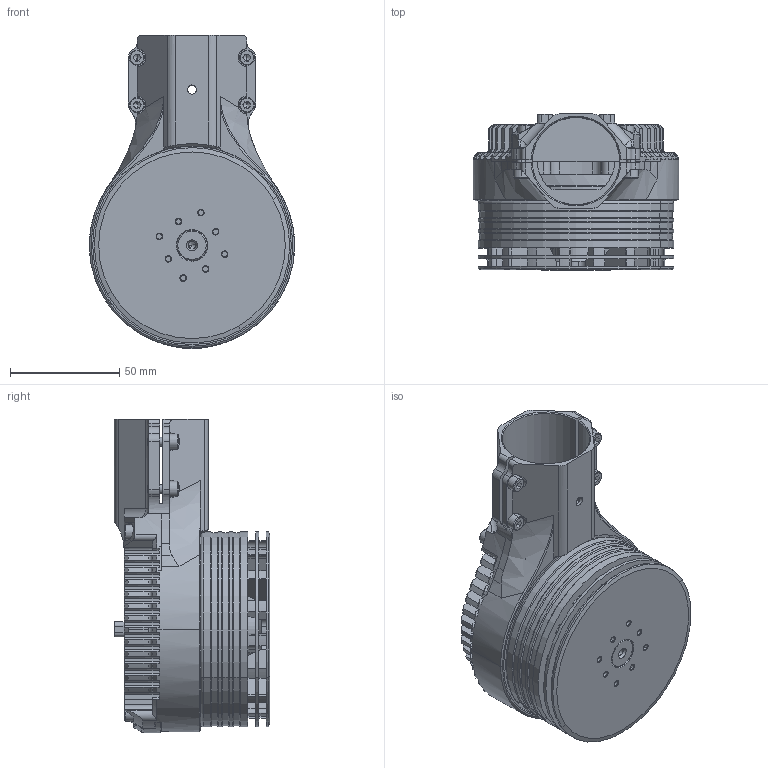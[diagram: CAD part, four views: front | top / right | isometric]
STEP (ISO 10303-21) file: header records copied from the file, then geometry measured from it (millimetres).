
FILE_DESCRIPTION (( 'STEP AP203' ), '1' );
FILE_NAME ('RD R8 IPU.STEP', '2026-04-29T11:05:45', ( '' ), ( '' ), 'RDSTEP 2.0', 'Reflex drive Product 2026', '' );
FILE_SCHEMA (( 'CONFIG_CONTROL_DESIGN' ));
Products named in the file (1): RD R8 IPU
Bounding box: 94 x 71.23 x 143.44 mm (x, y, z)
Volume: 309322.9 mm3; surface area: 130256.4 mm2
Topology: 1 solids, 16 shells, 2605 faces, 7040 edges, 4283 vertices
Faces by surface type: cylinder 1036, plane 990, cone 285, sphere 178, torus 64, bspline 52
Entity records: 87562 total; most frequent: CARTESIAN_POINT 22393, DIRECTION 13983, ORIENTED_EDGE 13688, EDGE_CURVE 6844, AXIS2_PLACEMENT_3D 5311, VERTEX_POINT 4283, VECTOR 3361, LINE 3361
